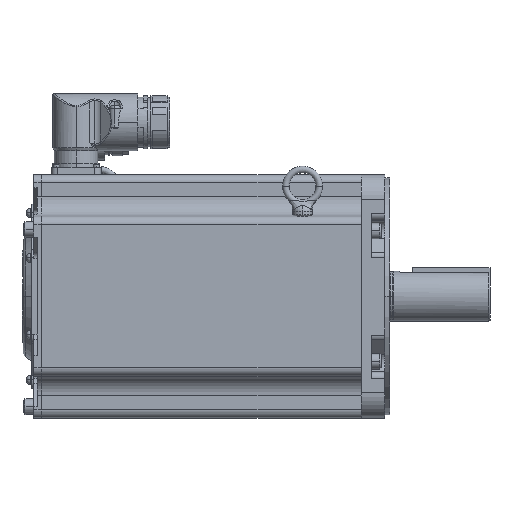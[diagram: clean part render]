
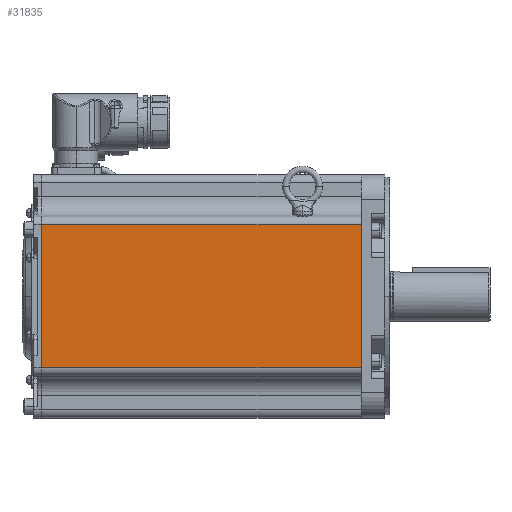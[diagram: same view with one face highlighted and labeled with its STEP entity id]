
A CAD part, top view. The second image highlights one B-rep face of the part: STEP entity #31835.
In plain terms, the highlighted planar face has unit normal (0, 0, 1) as drawn and (0, 0, -1) by its records, which use the part's own axes.
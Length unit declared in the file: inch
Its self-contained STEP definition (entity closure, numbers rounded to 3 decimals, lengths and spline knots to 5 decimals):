
#136 = VERTEX_POINT ( 'NONE', #22851 ) ;
#139 = VERTEX_POINT ( 'NONE', #22854 ) ;
#173 = VERTEX_POINT ( 'NONE', #22888 ) ;
#174 = VERTEX_POINT ( 'NONE', #22889 ) ;
#7254 = LINE ( 'NONE', #7255, #28964 ) ;
#7255 = CARTESIAN_POINT ( 'NONE',  ( -10.268, 2.39, -3.64 ) ) ;
#7256 = DIRECTION ( 'NONE',  ( 0., -1., 0. ) ) ;
#7329 = LINE ( 'NONE', #7330, #28989 ) ;
#7330 = CARTESIAN_POINT ( 'NONE',  ( -0.7, 2.39, -3.64 ) ) ;
#7331 = DIRECTION ( 'NONE',  ( 0., -1., 0. ) ) ;
#7380 = LINE ( 'NONE', #7381, #29005 ) ;
#7381 = CARTESIAN_POINT ( 'NONE',  ( -10.268, -2.14, -3.64 ) ) ;
#7382 = DIRECTION ( 'NONE',  ( -1., 0., 0. ) ) ;
#7383 = LINE ( 'NONE', #7384, #29007 ) ;
#7384 = CARTESIAN_POINT ( 'NONE',  ( -10.268, 2.14, -3.64 ) ) ;
#7385 = DIRECTION ( 'NONE',  ( 1., 0., 0. ) ) ;
#10945 = FACE_OUTER_BOUND ( 'NONE', #19577, .T. ) ;
#10947 = AXIS2_PLACEMENT_3D ( 'NONE', #28201, #28202, #28203 ) ;
#19577 = EDGE_LOOP ( 'NONE', ( #20565, #20566, #20564, #20567 ) ) ;
#20564 = ORIENTED_EDGE ( 'NONE', *, *, #34102, .F. ) ;
#20565 = ORIENTED_EDGE ( 'NONE', *, *, #34127, .T. ) ;
#20566 = ORIENTED_EDGE ( 'NONE', *, *, #34144, .T. ) ;
#20567 = ORIENTED_EDGE ( 'NONE', *, *, #34145, .T. ) ;
#22851 = CARTESIAN_POINT ( 'NONE',  ( -0.7, 2.14, -3.64 ) ) ;
#22854 = CARTESIAN_POINT ( 'NONE',  ( -0.7, -2.14, -3.64 ) ) ;
#22888 = CARTESIAN_POINT ( 'NONE',  ( -10.268, -2.14, -3.64 ) ) ;
#22889 = CARTESIAN_POINT ( 'NONE',  ( -10.268, 2.14, -3.64 ) ) ;
#28200 = PLANE ( 'NONE',  #10947 ) ;
#28201 = CARTESIAN_POINT ( 'NONE',  ( -10.268, 2.39, -3.64 ) ) ;
#28202 = DIRECTION ( 'NONE',  ( 0., 0., 1. ) ) ;
#28203 = DIRECTION ( 'NONE',  ( 1., 0., 0. ) ) ;
#28964 = VECTOR ( 'NONE', #7256, 39.37008 ) ;
#28989 = VECTOR ( 'NONE', #7331, 39.37008 ) ;
#29005 = VECTOR ( 'NONE', #7382, 39.37008 ) ;
#29007 = VECTOR ( 'NONE', #7385, 39.37008 ) ;
#31835 = ADVANCED_FACE ( 'NONE', ( #10945 ), #28200, .F. ) ;
#34102 = EDGE_CURVE ( 'NONE', #174, #173, #7254, .T. ) ;
#34127 = EDGE_CURVE ( 'NONE', #136, #139, #7329, .T. ) ;
#34144 = EDGE_CURVE ( 'NONE', #139, #173, #7380, .T. ) ;
#34145 = EDGE_CURVE ( 'NONE', #174, #136, #7383, .T. ) ;
